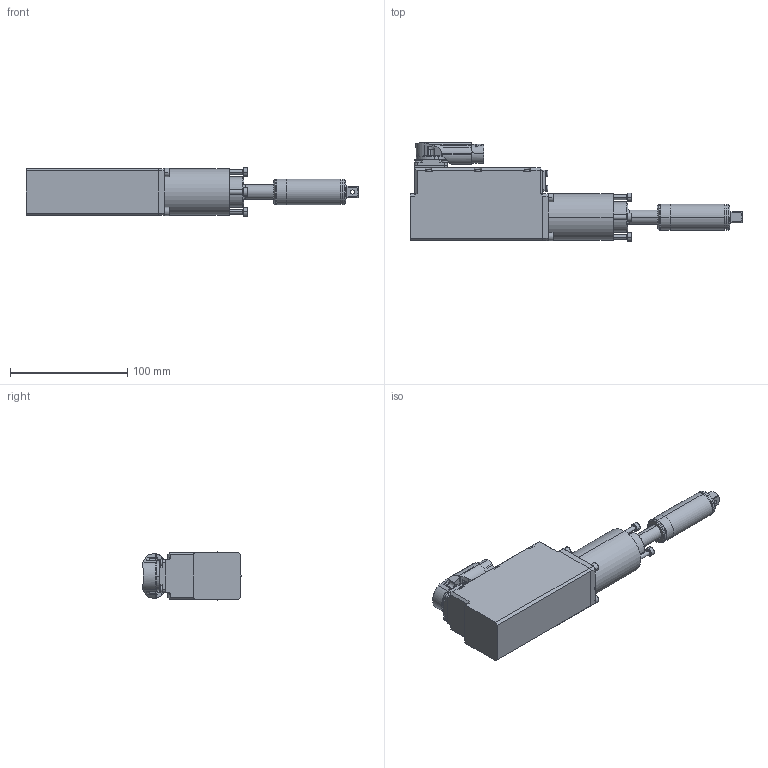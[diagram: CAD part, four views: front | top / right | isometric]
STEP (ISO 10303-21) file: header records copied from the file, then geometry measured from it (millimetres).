
FILE_DESCRIPTION (( 'STEP AP214' ), '1' );
FILE_NAME ('70121593_KSX1015ZF25.STEP', '2020-01-15T12:01:27', ( 'admin' ), ( '' ), 'SwSTEP 2.0', 'SolidWorks 2017', '' );
FILE_SCHEMA (( 'AUTOMOTIVE_DESIGN' ));
Length unit declared in the file: millimetre
Products named in the file (9): 7002387_3; 70111023; 70111010; 70111000_KSX1_Stecker_vorne; 70111180_Pos_vorne; 70111180; 70111180_2; 70111000; 70121593_KSX1015ZF25
Assembly tree (8 placements, depth 4):
  70121593_KSX1015ZF25
    70111000_KSX1_Stecker_vorne
      70111000
      70111180_Pos_vorne
        70111180_2
        70111180
    70111010
    70111023
    7002387_3
Bounding box: 283.2 x 83.9 x 41 mm (x, y, z)
Volume: 406530.3 mm3; surface area: 79903.1 mm2
Topology: 10 solids, 12 shells, 1704 faces, 4351 edges, 2754 vertices
Faces by surface type: cylinder 743, plane 500, cone 251, torus 119, sphere 48, bspline 43
Entity records: 63356 total; most frequent: CARTESIAN_POINT 15177, ORIENTED_EDGE 8570, DIRECTION 8345, EDGE_CURVE 4285, AXIS2_PLACEMENT_3D 3351, VERTEX_POINT 2754, EDGE_LOOP 1873, FACE_OUTER_BOUND 1704
